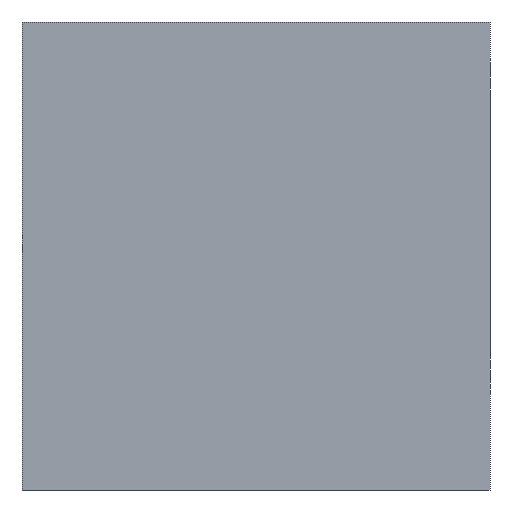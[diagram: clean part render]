
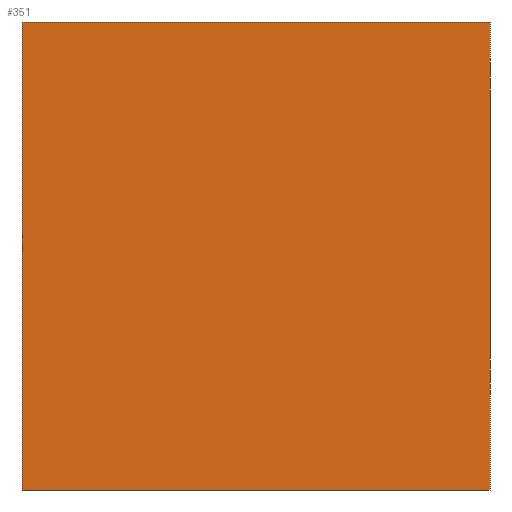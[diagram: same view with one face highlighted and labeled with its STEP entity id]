
A CAD part, front view. The second image highlights one B-rep face of the part: STEP entity #351.
In plain terms, the highlighted planar face has unit normal (0, -1, 0).
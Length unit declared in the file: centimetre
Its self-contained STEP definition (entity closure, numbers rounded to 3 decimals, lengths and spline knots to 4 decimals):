
#25 = CARTESIAN_POINT ( 'NONE',  ( 1000., 0., 0. ) ) ;
#30 = DIRECTION ( 'NONE',  ( 1., 0., 0. ) ) ;
#34 = DIRECTION ( 'NONE',  ( 0., 0., -1. ) ) ;
#38 = DIRECTION ( 'NONE',  ( 0., 0., -1. ) ) ;
#49 = CARTESIAN_POINT ( 'NONE',  ( 0., 0., 1000. ) ) ;
#61 = CARTESIAN_POINT ( 'NONE',  ( 0., 0., 1000. ) ) ;
#114 = VERTEX_POINT ( 'NONE', #61 ) ;
#123 = CARTESIAN_POINT ( 'NONE',  ( 0., 0., 1000. ) ) ;
#154 = FACE_OUTER_BOUND ( 'NONE', #319, .T. ) ;
#175 = VECTOR ( 'NONE', #30, 100. ) ;
#191 = EDGE_CURVE ( 'NONE', #413, #471, #244, .T. ) ;
#208 = CARTESIAN_POINT ( 'NONE',  ( 0., 0., 1000. ) ) ;
#227 = AXIS2_PLACEMENT_3D ( 'NONE', #49, #295, #378 ) ;
#232 = EDGE_CURVE ( 'NONE', #114, #313, #439, .T. ) ;
#238 = VECTOR ( 'NONE', #34, 100. ) ;
#241 = CARTESIAN_POINT ( 'NONE',  ( 1000., 0., 1000. ) ) ;
#244 = LINE ( 'NONE', #241, #238 ) ;
#246 = ORIENTED_EDGE ( 'NONE', *, *, #331, .F. ) ;
#258 = PLANE ( 'NONE',  #227 ) ;
#295 = DIRECTION ( 'NONE',  ( 0., 1., 0. ) ) ;
#297 = ORIENTED_EDGE ( 'NONE', *, *, #440, .T. ) ;
#310 = VECTOR ( 'NONE', #38, 100. ) ;
#313 = VERTEX_POINT ( 'NONE', #414 ) ;
#317 = CARTESIAN_POINT ( 'NONE',  ( 0., 0., 0. ) ) ;
#319 = EDGE_LOOP ( 'NONE', ( #297, #449, #246, #477 ) ) ;
#331 = EDGE_CURVE ( 'NONE', #114, #413, #456, .T. ) ;
#335 = VECTOR ( 'NONE', #379, 100. ) ;
#351 = ADVANCED_FACE ( 'NONE', ( #154 ), #258, .F. ) ;
#355 = CARTESIAN_POINT ( 'NONE',  ( 1000., 0., 1000. ) ) ;
#378 = DIRECTION ( 'NONE',  ( 0., 0., 1. ) ) ;
#379 = DIRECTION ( 'NONE',  ( 1., 0., 0. ) ) ;
#413 = VERTEX_POINT ( 'NONE', #355 ) ;
#414 = CARTESIAN_POINT ( 'NONE',  ( 0., 0., 0. ) ) ;
#430 = LINE ( 'NONE', #317, #175 ) ;
#439 = LINE ( 'NONE', #208, #310 ) ;
#440 = EDGE_CURVE ( 'NONE', #313, #471, #430, .T. ) ;
#449 = ORIENTED_EDGE ( 'NONE', *, *, #191, .F. ) ;
#456 = LINE ( 'NONE', #123, #335 ) ;
#471 = VERTEX_POINT ( 'NONE', #25 ) ;
#477 = ORIENTED_EDGE ( 'NONE', *, *, #232, .T. ) ;
